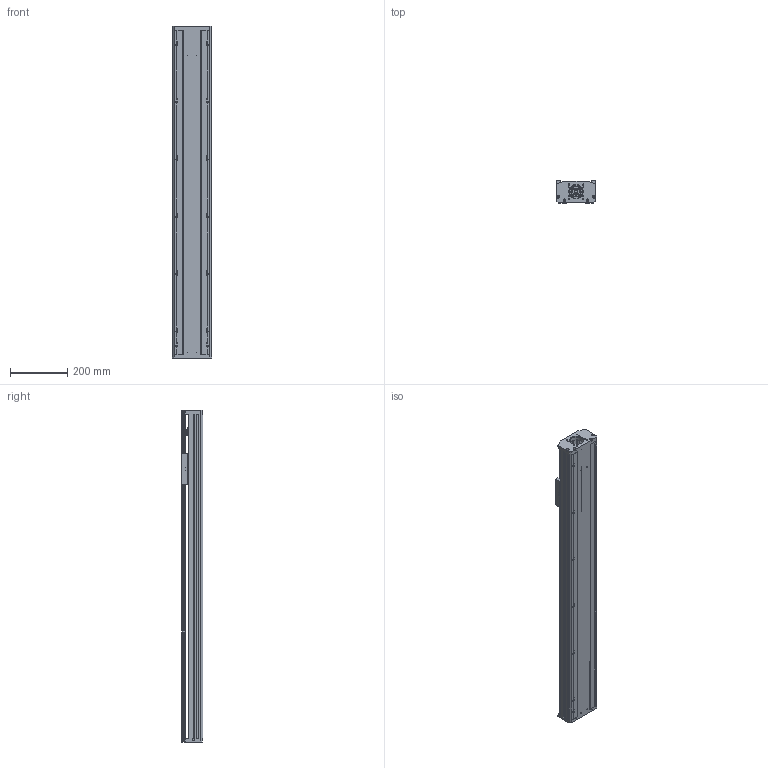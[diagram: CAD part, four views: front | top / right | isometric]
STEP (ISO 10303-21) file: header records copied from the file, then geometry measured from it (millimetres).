
FILE_DESCRIPTION(/* description */ (''),/* implementation_level */ '2;1');
FILE_NAME(/* name */ 'TKA136-F0-900_asm1.stp',/* time_stamp */ '2016-05-07T08:38:54+08:00',/* author */ (''),/* organization */ (''),/* preprocessor_version */ 'ST-DEVELOPER v15',/* originating_system */ 'SIEMENS PLM Software NX 8.5',/* authorisation */ '');
FILE_SCHEMA (('AUTOMOTIVE_DESIGN { 1 0 10303 214 3 1 1 1 }'));
Length unit declared in the file: millimetre
Products named in the file (3): 900-02; 900-01; TKA136-F0-900_asm1
Assembly tree (2 placements, depth 2):
  TKA136-F0-900_asm1
    900-01
    900-02
Bounding box: 136 x 75 x 1157 mm (x, y, z)
Volume: 3570483.2 mm3; surface area: 1328039.3 mm2
Topology: 2 solids, 12 shells, 845 faces, 2419 edges, 1580 vertices
Faces by surface type: cylinder 404, plane 387, cone 54
Full cylindrical faces by diameter (mm): 2.5 x4, 3 x2, 3.3 x12, 4 x4, 4.2 x10, 4.5 x20, 5 x18, 5.5 x26, 6.6 x18, 8 x20, 10 x9, 10.5 x14, 11 x4, 11.6 x1, 12 x9, 15 x3, 16 x5, 17 x1, 24 x5, 26 x1, 28 x1, 46 x1, 50 x1
Entity records: 28764 total; most frequent: CARTESIAN_POINT 7980, DIRECTION 4277, ORIENTED_EDGE 4060, EDGE_CURVE 2030, AXIS2_PLACEMENT_3D 1631, VERTEX_POINT 1460, EDGE_LOOP 1240, LINE 1015
